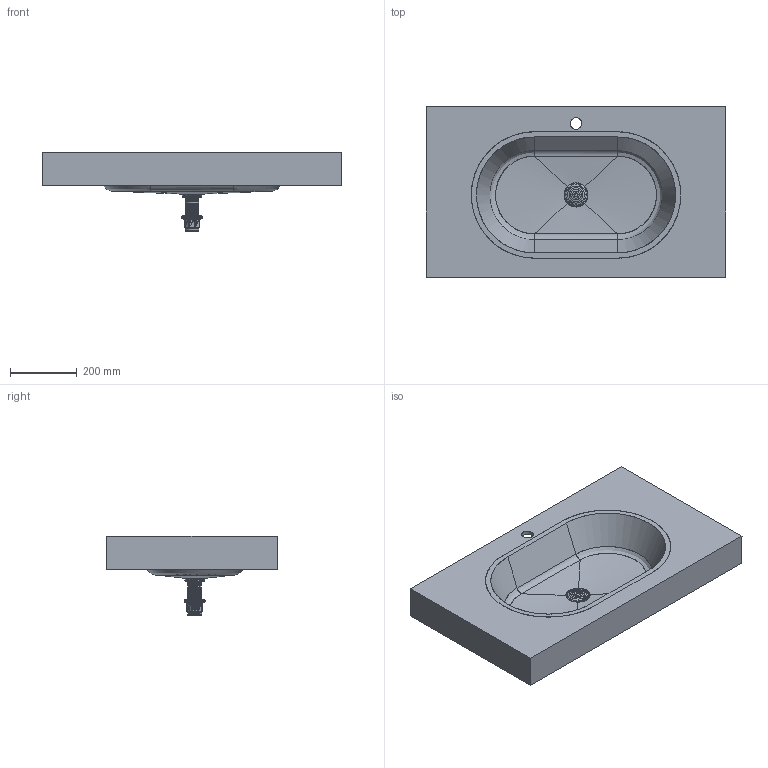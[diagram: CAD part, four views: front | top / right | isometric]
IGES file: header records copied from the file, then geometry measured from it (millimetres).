
Start section: Data from Parasolid IGES Translator 19.0.9, Copyright(c) 2006 Siemens PL M Software. All Rights Reserved.
Global section: file name: noorth-top-H 10 D 51,3 W 90_6534.igs; native system: By Siemens PLM Incorporated; preprocessor: XPlus GENERIC/IGES 19.0.9; author: Noname; organization: Noname; date: 20200603.093357; units: metre
Bounding box: 900 x 512 x 240 mm (x, y, z)
Volume: 5022147.2 mm3; surface area: 1594411.4 mm2
Topology: 1 solids, 1 shells, 11684 faces, 35189 edges, 35168 vertices
Faces by surface type: extrusion 11627, bspline 32, plane 12, revolution 10, cylinder 3
Full cylindrical faces by diameter (mm): 34.9 x1
